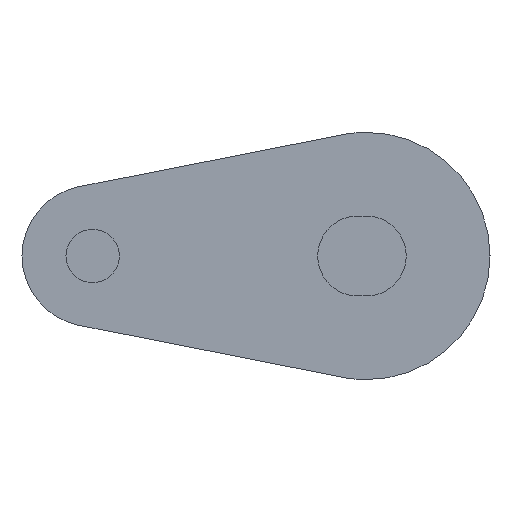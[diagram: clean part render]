
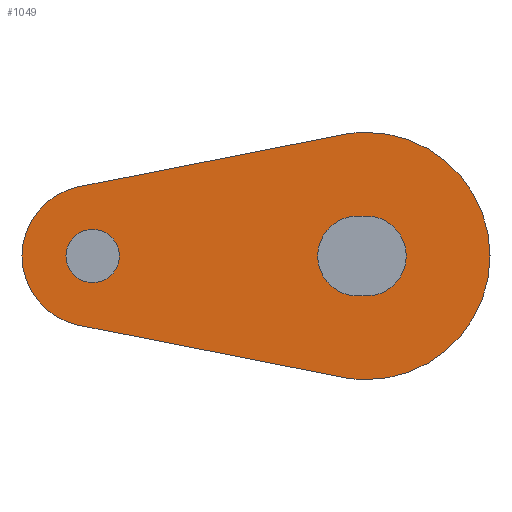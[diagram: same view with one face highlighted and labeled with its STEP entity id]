
A CAD part, left-side view. The second image highlights one B-rep face of the part: STEP entity #1049.
In plain terms, the highlighted planar face has unit normal (-1, 0, 0).
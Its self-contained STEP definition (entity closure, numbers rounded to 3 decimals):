
#17 = DIRECTION ( 'NONE',  ( 0., -1., 0. ) ) ;
#40 = VERTEX_POINT ( 'NONE', #108 ) ;
#42 = VERTEX_POINT ( 'NONE', #105 ) ;
#43 = VERTEX_POINT ( 'NONE', #104 ) ;
#44 = VERTEX_POINT ( 'NONE', #103 ) ;
#45 = VERTEX_POINT ( 'NONE', #102 ) ;
#46 = VERTEX_POINT ( 'NONE', #101 ) ;
#48 = VERTEX_POINT ( 'NONE', #100 ) ;
#53 = VERTEX_POINT ( 'NONE', #111 ) ;
#55 = VERTEX_POINT ( 'NONE', #109 ) ;
#61 = VERTEX_POINT ( 'NONE', #83 ) ;
#83 = CARTESIAN_POINT ( 'NONE',  ( -303.5, 0., -7. ) ) ;
#85 = CARTESIAN_POINT ( 'NONE',  ( -303.5, 15.5, 1.51 ) ) ;
#86 = CARTESIAN_POINT ( 'NONE',  ( -303.5, 0., -2.26 ) ) ;
#97 = CARTESIAN_POINT ( 'NONE',  ( -303.5, 0.5, 2.26 ) ) ;
#100 = CARTESIAN_POINT ( 'NONE',  ( -303.5, 15.5, -1.51 ) ) ;
#101 = CARTESIAN_POINT ( 'NONE',  ( -303.5, 1.355, 6.868 ) ) ;
#102 = CARTESIAN_POINT ( 'NONE',  ( -303.5, 0., 7. ) ) ;
#103 = CARTESIAN_POINT ( 'NONE',  ( -303.5, 16.274, -3.924 ) ) ;
#104 = CARTESIAN_POINT ( 'NONE',  ( -303.5, 16.274, 3.924 ) ) ;
#105 = CARTESIAN_POINT ( 'NONE',  ( -303.5, 0., 2.26 ) ) ;
#108 = CARTESIAN_POINT ( 'NONE',  ( -303.5, 1.355, -6.868 ) ) ;
#109 = CARTESIAN_POINT ( 'NONE',  ( -303.5, 0.5, -2.26 ) ) ;
#111 = CARTESIAN_POINT ( 'NONE',  ( -303.5, 0.5, 2.26 ) ) ;
#118 = VERTEX_POINT ( 'NONE', #86 ) ;
#119 = VERTEX_POINT ( 'NONE', #85 ) ;
#140 = CARTESIAN_POINT ( 'NONE',  ( -303.5, 1.355, -6.868 ) ) ;
#143 = CARTESIAN_POINT ( 'NONE',  ( -303.5, 0., 0. ) ) ;
#144 = DIRECTION ( 'NONE',  ( 0., 0.981, 0.194 ) ) ;
#145 = DIRECTION ( 'NONE',  ( 0., 0., -1. ) ) ;
#146 = DIRECTION ( 'NONE',  ( 1., 0., 0. ) ) ;
#177 = CARTESIAN_POINT ( 'NONE',  ( -303.5, 15.5, 0. ) ) ;
#179 = DIRECTION ( 'NONE',  ( 0., 0., -1. ) ) ;
#180 = DIRECTION ( 'NONE',  ( 1., 0., 0. ) ) ;
#209 = CARTESIAN_POINT ( 'NONE',  ( -303.5, 16.274, 3.924 ) ) ;
#210 = DIRECTION ( 'NONE',  ( 0., -0.981, 0.194 ) ) ;
#229 = CARTESIAN_POINT ( 'NONE',  ( -303.5, 0., 0. ) ) ;
#236 = DIRECTION ( 'NONE',  ( 1., 0., 0. ) ) ;
#237 = DIRECTION ( 'NONE',  ( 0., 0., -1. ) ) ;
#247 = CARTESIAN_POINT ( 'NONE',  ( -303.5, 15.5, 0. ) ) ;
#251 = CARTESIAN_POINT ( 'NONE',  ( -303.5, 0., 0. ) ) ;
#260 = CARTESIAN_POINT ( 'NONE',  ( -303.5, 0.5, 0. ) ) ;
#261 = DIRECTION ( 'NONE',  ( 0., 0., -1. ) ) ;
#262 = DIRECTION ( 'NONE',  ( 1., 0., 0. ) ) ;
#263 = CARTESIAN_POINT ( 'NONE',  ( -303.5, 0.5, -2.26 ) ) ;
#264 = DIRECTION ( 'NONE',  ( 0., 1., 0. ) ) ;
#267 = CARTESIAN_POINT ( 'NONE',  ( -303.5, 15.5, 0. ) ) ;
#268 = DIRECTION ( 'NONE',  ( 1., 0., 0. ) ) ;
#269 = DIRECTION ( 'NONE',  ( 0., 0., -1. ) ) ;
#271 = DIRECTION ( 'NONE',  ( 0., 0., -1. ) ) ;
#272 = DIRECTION ( 'NONE',  ( 1., 0., 0. ) ) ;
#276 = DIRECTION ( 'NONE',  ( 1., 0., 0. ) ) ;
#277 = DIRECTION ( 'NONE',  ( 0., 0., -1. ) ) ;
#287 = CARTESIAN_POINT ( 'NONE',  ( -303.5, 0., 0. ) ) ;
#318 = DIRECTION ( 'NONE',  ( 0., 0., -1. ) ) ;
#319 = DIRECTION ( 'NONE',  ( -1., 0., 0. ) ) ;
#320 = CARTESIAN_POINT ( 'NONE',  ( -303.5, 15.5, 0. ) ) ;
#324 = PLANE ( 'NONE',  #468 ) ;
#458 = DIRECTION ( 'NONE',  ( 1., 0., 0. ) ) ;
#459 = DIRECTION ( 'NONE',  ( 0., 0., -1. ) ) ;
#468 = AXIS2_PLACEMENT_3D ( 'NONE', #320, #319, #318 ) ;
#469 = AXIS2_PLACEMENT_3D ( 'NONE', #260, #272, #271 ) ;
#471 = EDGE_CURVE ( 'NONE', #53, #42, #944, .T. ) ;
#510 = EDGE_CURVE ( 'NONE', #40, #44, #739, .T. ) ;
#514 = AXIS2_PLACEMENT_3D ( 'NONE', #267, #276, #277 ) ;
#516 = AXIS2_PLACEMENT_3D ( 'NONE', #251, #268, #269 ) ;
#518 = AXIS2_PLACEMENT_3D ( 'NONE', #229, #236, #237 ) ;
#519 = EDGE_CURVE ( 'NONE', #42, #118, #726, .T. ) ;
#525 = AXIS2_PLACEMENT_3D ( 'NONE', #177, #180, #179 ) ;
#538 = EDGE_CURVE ( 'NONE', #119, #48, #704, .T. ) ;
#554 = EDGE_CURVE ( 'NONE', #43, #46, #693, .T. ) ;
#569 = EDGE_CURVE ( 'NONE', #61, #40, #667, .T. ) ;
#581 = AXIS2_PLACEMENT_3D ( 'NONE', #287, #458, #459 ) ;
#588 = AXIS2_PLACEMENT_3D ( 'NONE', #143, #146, #145 ) ;
#595 = EDGE_CURVE ( 'NONE', #48, #119, #653, .T. ) ;
#596 = EDGE_CURVE ( 'NONE', #118, #55, #679, .T. ) ;
#599 = EDGE_CURVE ( 'NONE', #45, #61, #647, .T. ) ;
#603 = EDGE_CURVE ( 'NONE', #55, #53, #645, .T. ) ;
#608 = EDGE_CURVE ( 'NONE', #44, #43, #643, .T. ) ;
#621 = AXIS2_PLACEMENT_3D ( 'NONE', #247, #262, #261 ) ;
#624 = EDGE_CURVE ( 'NONE', #46, #45, #1000, .T. ) ;
#643 = CIRCLE ( 'NONE', #514, 4. ) ;
#645 = CIRCLE ( 'NONE', #469, 2.26 ) ;
#647 = CIRCLE ( 'NONE', #516, 7. ) ;
#653 = CIRCLE ( 'NONE', #621, 1.51 ) ;
#660 = VECTOR ( 'NONE', #264, 1000. ) ;
#667 = CIRCLE ( 'NONE', #518, 7. ) ;
#679 = LINE ( 'NONE', #263, #660 ) ;
#692 = VECTOR ( 'NONE', #210, 1000. ) ;
#693 = LINE ( 'NONE', #209, #692 ) ;
#704 = CIRCLE ( 'NONE', #525, 1.51 ) ;
#726 = CIRCLE ( 'NONE', #588, 2.26 ) ;
#730 = VECTOR ( 'NONE', #144, 1000. ) ;
#739 = LINE ( 'NONE', #140, #730 ) ;
#756 = ORIENTED_EDGE ( 'NONE', *, *, #599, .F. ) ;
#758 = ORIENTED_EDGE ( 'NONE', *, *, #554, .F. ) ;
#760 = ORIENTED_EDGE ( 'NONE', *, *, #624, .F. ) ;
#761 = ORIENTED_EDGE ( 'NONE', *, *, #569, .F. ) ;
#762 = ORIENTED_EDGE ( 'NONE', *, *, #608, .F. ) ;
#763 = ORIENTED_EDGE ( 'NONE', *, *, #510, .F. ) ;
#764 = ORIENTED_EDGE ( 'NONE', *, *, #595, .T. ) ;
#765 = ORIENTED_EDGE ( 'NONE', *, *, #538, .T. ) ;
#766 = ORIENTED_EDGE ( 'NONE', *, *, #596, .T. ) ;
#767 = ORIENTED_EDGE ( 'NONE', *, *, #519, .T. ) ;
#768 = ORIENTED_EDGE ( 'NONE', *, *, #471, .T. ) ;
#769 = ORIENTED_EDGE ( 'NONE', *, *, #603, .T. ) ;
#867 = EDGE_LOOP ( 'NONE', ( #769, #768, #767, #766 ) ) ;
#892 = VECTOR ( 'NONE', #17, 1000. ) ;
#897 = EDGE_LOOP ( 'NONE', ( #762, #763, #761, #756, #760, #758 ) ) ;
#903 = EDGE_LOOP ( 'NONE', ( #764, #765 ) ) ;
#944 = LINE ( 'NONE', #97, #892 ) ;
#971 = FACE_BOUND ( 'NONE', #903, .T. ) ;
#1000 = CIRCLE ( 'NONE', #581, 7. ) ;
#1032 = FACE_BOUND ( 'NONE', #867, .T. ) ;
#1034 = FACE_OUTER_BOUND ( 'NONE', #897, .T. ) ;
#1049 = ADVANCED_FACE ( 'NONE', ( #1032, #971, #1034 ), #324, .T. ) ;
